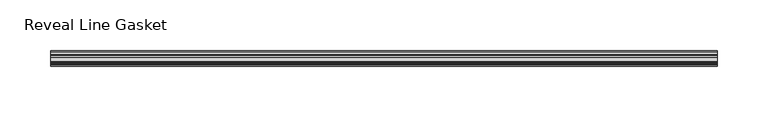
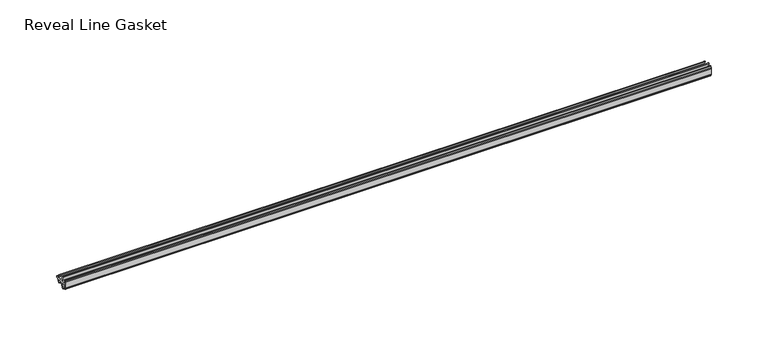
"""IFC4 building model written with IfcOpenShell, lengths in millimetres: proxy geometry, Accessories-Teknion-FHGR-AI_Healthcare-Reveal_Line_Gasket(Horizontal)-R2022 : Reveal Line Gasket."""

from ifc_helpers import new_model, si_unit, point, frame, frame_2d, origin, place, context, project, spatial, polyline, circle_curve, trimmed, segment, composite_curve, outline, extrude, source, transform, mapped, element, save


def reveal_line_gasket_96b295db(model_context):
    return source(origin(), model_context, "Body", "SweptSolid", [
        extrude(outline(composite_curve([segment(polyline([(-7.6326998, 1603.2), (-7.4091917, 1604.1554927), (-6.8813059, 1605.0884684)]), True, "CONTINUOUS"), segment(trimmed(circle_curve(frame_2d((-6.5243141, 1604.8864793)), 0.4101739), [point((-6.8813059, 1605.0884684))], [point((-6.1246704, 1604.7941347))], False, "CARTESIAN"), True, "CONTINUOUS"), segment(polyline([(-6.1246704, 1604.7941347), (-6.3626997, 1603.0979086), (-6.3626997, 1601.0654527)]), True, "CONTINUOUS"), segment(trimmed(circle_curve(frame_2d((-5.6959605, 1601.4819258)), 0.786124), [point((-6.3626997, 1601.0654527))], [point((-5.0926996, 1600.977875))], True, "CARTESIAN"), True, "CONTINUOUS"), segment(polyline([(-5.0926996, 1600.977875), (-0.7492996, 1600.977875), (-3.7293824, 1606.1395295)]), True, "CONTINUOUS"), segment(trimmed(circle_curve(frame_2d((-3.3132479, 1606.2049761)), 0.4212495), [point((-3.7293824, 1606.1395295))], [point((-3.0485022, 1606.5326358))], False, "CARTESIAN"), True, "CONTINUOUS"), segment(polyline([(-3.0485022, 1606.5326358), (0.5742594, 1600.977875), (4.8262978, 1600.977875), (3.1660374, 1603.8535297)]), True, "CONTINUOUS"), segment(trimmed(circle_curve(frame_2d((3.5978728, 1603.9118855)), 0.4357605), [point((3.1660374, 1603.8535297))], [point((3.864328, 1604.2566881))], False, "CARTESIAN"), True, "CONTINUOUS"), segment(polyline([(3.864328, 1604.2566881), (6.1944059, 1600.977875), (7.6326998, 1600.977875), (7.6326998, 1599.422125), (6.1944059, 1599.422125), (3.864328, 1596.1433119)]), True, "CONTINUOUS"), segment(trimmed(circle_curve(frame_2d((3.5978728, 1596.4881145)), 0.4357605), [point((3.864328, 1596.1433119))], [point((3.1660374, 1596.5464703))], False, "CARTESIAN"), True, "CONTINUOUS"), segment(polyline([(3.1660374, 1596.5464703), (4.8262978, 1599.422125), (0.5742594, 1599.422125), (-3.0485022, 1593.8673642)]), True, "CONTINUOUS"), segment(trimmed(circle_curve(frame_2d((-3.3132479, 1594.1950239)), 0.4212495), [point((-3.0485022, 1593.8673642))], [point((-3.7293824, 1594.2604705))], False, "CARTESIAN"), True, "CONTINUOUS"), segment(polyline([(-3.7293824, 1594.2604705), (-0.7492996, 1599.422125), (-5.0926996, 1599.422125)]), True, "CONTINUOUS"), segment(trimmed(circle_curve(frame_2d((-5.6959605, 1598.9180742)), 0.786124), [point((-5.0926996, 1599.422125))], [point((-6.3626997, 1599.3345473))], True, "CARTESIAN"), True, "CONTINUOUS"), segment(polyline([(-6.3626997, 1599.3345473), (-6.3626997, 1597.3020914), (-6.1246704, 1595.6058653)]), True, "CONTINUOUS"), segment(trimmed(circle_curve(frame_2d((-6.5243141, 1595.5135207)), 0.4101739), [point((-6.1246704, 1595.6058653))], [point((-6.8813059, 1595.3115316))], False, "CARTESIAN"), True, "CONTINUOUS"), segment(polyline([(-6.8813059, 1595.3115316), (-7.4091917, 1596.2445073), (-7.6326998, 1597.2), (-7.6326998, 1603.2)]), True, "CONTINUOUS")], self_intersect=False)), frame((-328.3204, 0.0, 0.0), z_axis=(1.0, 0.0, 0.0), x_axis=(0.0, 1.0, 0.0)), (0.0, 0.0, 1.0), 656.6408),
    ])


if __name__ == "__main__":
    model = new_model("IFC4")
    model_context = context("Model", 3, world=origin())
    ifc_project = project(units=[si_unit("LENGTHUNIT", "METRE", prefix="MILLI")], contexts=[model_context])
    site = spatial("IfcSite", under=ifc_project)
    building = spatial("IfcBuilding", under=site)
    placement = place(None, origin())
    reveal_line_gasket_shape = reveal_line_gasket_96b295db(model_context)
    element("IfcBuildingElementProxy", 1, Name="Accessories-Teknion-FHGR-AI_Healthcare-Reveal_Line_Gasket(Horizontal)-R2022 : Reveal Line Gasket", ObjectType="Accessories-Teknion-FHGR-AI_Healthcare-Reveal_Line_Gasket(Horizontal)-R2022 : Reveal Line Gasket", at=placement, inside=building, context=model_context, shape_type="MappedRepresentation", body=[
        mapped(reveal_line_gasket_shape, transform((0.0, 0.0, 0.0), x_axis=(1.0, 0.0, 0.0), y_axis=(0.0, 1.0, 0.0), z_axis=(0.0, 0.0, 1.0))),
    ])
    save(model, "model.ifc")
